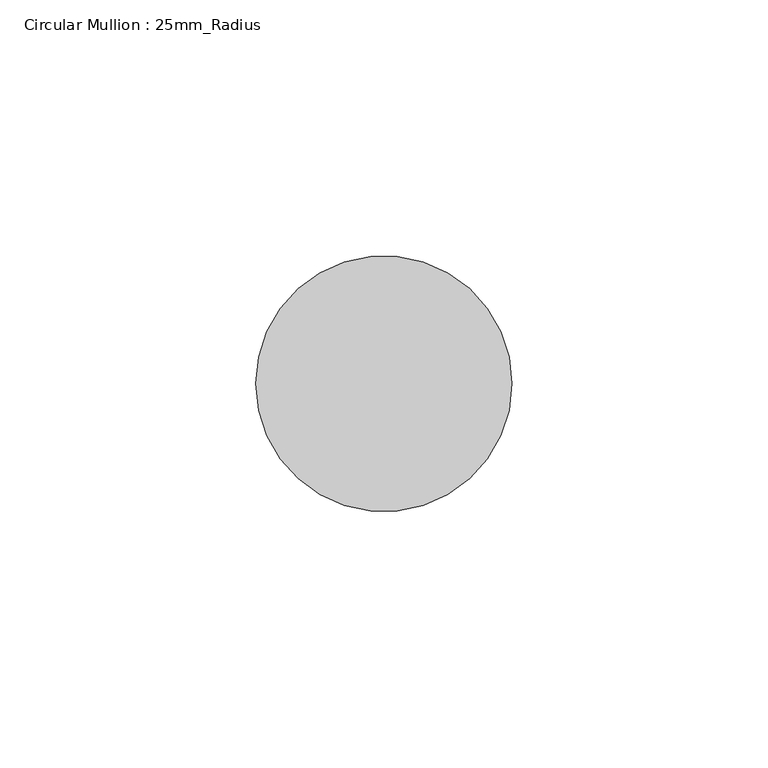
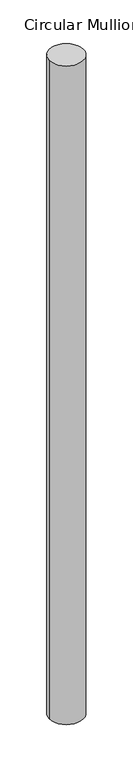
"""IFC4 building model written with IfcOpenShell, lengths in millimetres: member geometry, Circular Mullion : 25mm_Radius."""

from ifc_helpers import new_model, si_unit, point, frame, frame_2d, origin, place, context, project, spatial, circle_curve, trimmed, segment, composite_curve, outline, extrude, source, transform, mapped, element, save


def circular_mullion_25mm_radius_b1c50ec3(model_context):
    return source(origin(), model_context, "Body", "SweptSolid", [
        extrude(outline(composite_curve([segment(trimmed(circle_curve(frame_2d((-25.0, 0.0)), 25.0), [point((0.0, 0.0))], [point((-50.0, 0.0))], False, "CARTESIAN"), True, "CONTINUOUS"), segment(trimmed(circle_curve(frame_2d((-25.0, 0.0)), 25.0), [point((-50.0, 0.0))], [point((0.0, 0.0))], False, "CARTESIAN"), True, "CONTINUOUS")], self_intersect=False)), frame((0.0, 0.0, -1020.0), z_axis=(0.0, 0.0, 1.0), x_axis=(1.0, 0.0, 0.0)), (0.0, 0.0, 1.0), 1020.0),
    ])


if __name__ == "__main__":
    model = new_model("IFC4")
    model_context = context("Model", 3, world=origin())
    ifc_project = project(units=[si_unit("LENGTHUNIT", "METRE", prefix="MILLI")], contexts=[model_context])
    site = spatial("IfcSite", under=ifc_project)
    building = spatial("IfcBuilding", under=site)
    placement = place(None, origin())
    circular_mullion_25mm_radius_shape = circular_mullion_25mm_radius_b1c50ec3(model_context)
    element("IfcMember", 1, ObjectType="Circular Mullion : 25mm_Radius", at=placement, inside=building, context=model_context, shape_type="MappedRepresentation", body=[
        mapped(circular_mullion_25mm_radius_shape, transform((0.0, 0.0, 0.0), x_axis=(1.0, 0.0, 0.0), y_axis=(0.0, 1.0, 0.0), z_axis=(0.0, 0.0, 1.0))),
    ])
    save(model, "model.ifc")
